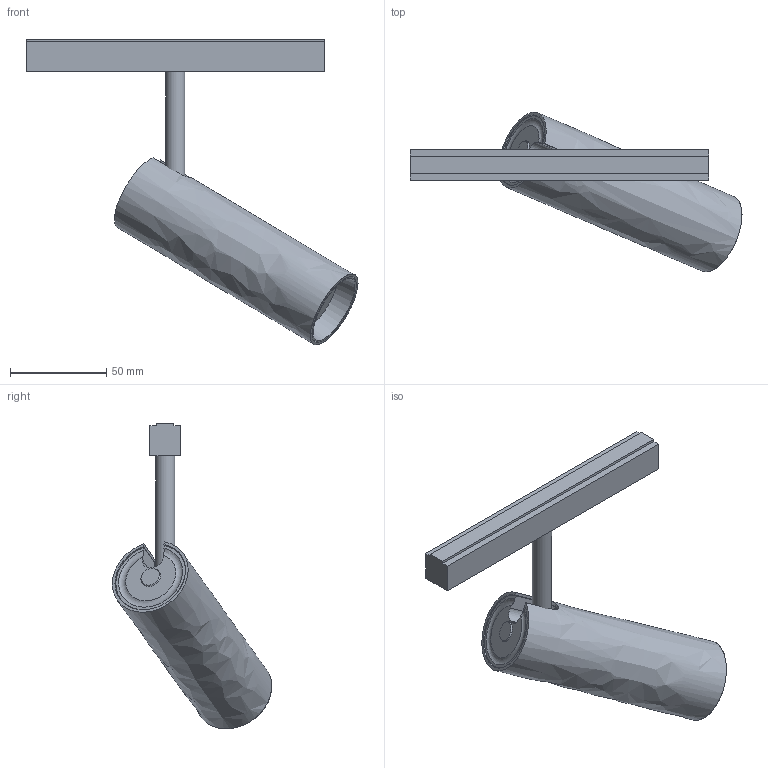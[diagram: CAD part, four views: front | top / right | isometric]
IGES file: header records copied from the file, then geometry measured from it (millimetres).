
Start section: SolidWorks IGES file using analytic representation for surfaces
Global section: file name: X:\PRODUKT\Modele 3D_WWW\_KOLEKCJE WWW\_LVM\LVM-SPOT-S-LED-10142\LVM-SPOT-LED-10142.IGS; native system: SolidWorks 2021; preprocessor: SolidWorks 2021; author: gabriela.tworek; date: 220511.100647; units: millimetre
Bounding box: 172.32 x 82.77 x 158.67 mm (x, y, z)
Surface area: 59473.5 mm2 (no closed solid volume)
Topology: 0 solids, 0 shells, 54 faces, 206 edges, 192 vertices
Faces by surface type: bspline 32, revolution 22
